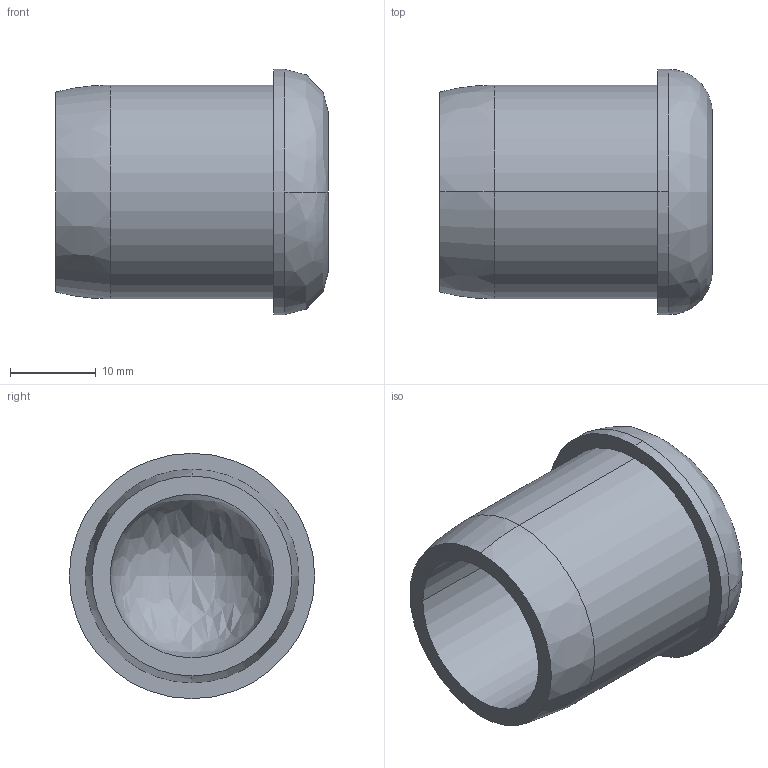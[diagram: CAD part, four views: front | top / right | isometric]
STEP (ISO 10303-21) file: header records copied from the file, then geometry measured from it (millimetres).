
FILE_DESCRIPTION (( 'STEP AP203' ), '1' );
FILE_NAME ('FDPCK-MC1-END-CAP.step', '2019-09-11T18:41:13', ( 'ydmin' ), ( '' ), 'SwSTEP 2.0', 'SolidWorks 2017', '' );
FILE_SCHEMA (( 'CONFIG_CONTROL_DESIGN' ));
Length unit declared in the file: inch
Products named in the file (1): FDPCK-MC1-END-CAP
Bounding box: 31.75 x 28.57 x 28.57 mm (x, y, z)
Volume: 9509.1 mm3; surface area: 4802.3 mm2
Topology: 1 solids, 1 shells, 16 faces, 36 edges, 21 vertices
Faces by surface type: cylinder 6, bspline 5, plane 3, cone 2
Entity records: 564 total; most frequent: CARTESIAN_POINT 151, DIRECTION 76, ORIENTED_EDGE 64, AXIS2_PLACEMENT_3D 34, EDGE_CURVE 32, CIRCLE 22, VERTEX_POINT 21, EDGE_LOOP 19
